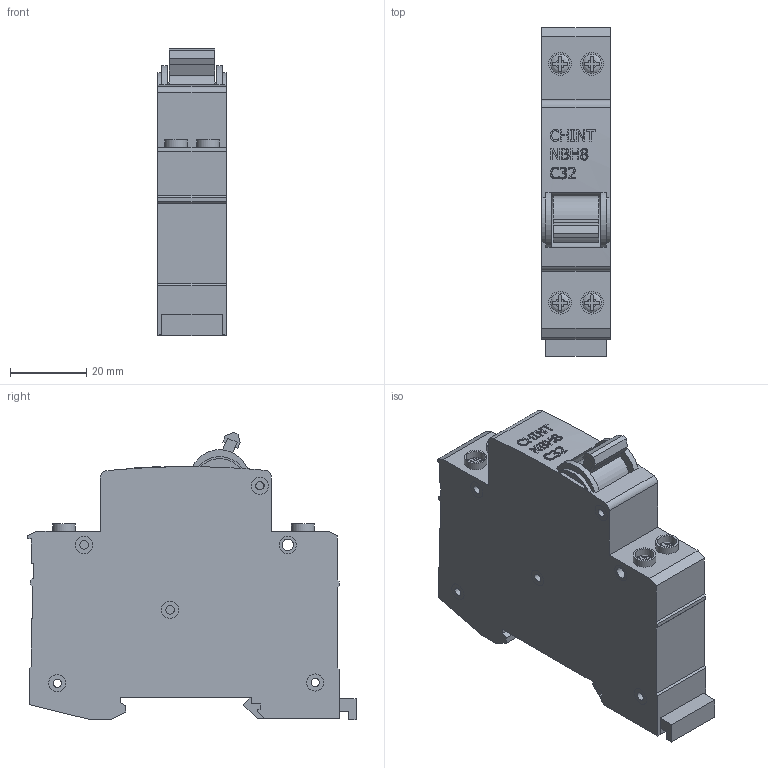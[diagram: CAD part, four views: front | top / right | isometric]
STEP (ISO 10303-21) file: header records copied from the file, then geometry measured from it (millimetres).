
FILE_DESCRIPTION(/* description */ (''),/* implementation_level */ '2;1');
FILE_NAME(/* name */ 'D:\CHINT\NBH8\Авт. Выкл NBH8-40 1P+N 16A 4.5kA х-ка B (CHINT).stp',/* time_stamp */ '2017-09-03T18:27:48+04:00',/* author */ ('RSagdiev'),/* organization */ (''),/* preprocessor_version */ 'ST-DEVELOPER v16.5',/* originating_system */ 'Autodesk Inventor 2017',/* authorisation */ '');
FILE_SCHEMA (('AUTOMOTIVE_DESIGN { 1 0 10303 214 3 1 1 }'));
Length unit declared in the file: millimetre
Products named in the file (1): Авт. Выкл NBH8-40 1P+N 16A 4.5kA
 х-ка B (CHINT)
Bounding box: 18 x 86.32 x 75.66 mm (x, y, z)
Volume: 80636.6 mm3; surface area: 20937.8 mm2
Topology: 23 solids, 23 shells, 464 faces, 1162 edges, 776 vertices
Faces by surface type: plane 284, bspline 103, cylinder 77
Full cylindrical faces by diameter (mm): 2.111 x1, 2.212 x17, 3.016 x3, 4.524 x18, 5 x4, 6 x4
Entity records: 16280 total; most frequent: CARTESIAN_POINT 5697, ORIENTED_EDGE 2218, DIRECTION 1919, EDGE_CURVE 1107, VERTEX_POINT 768, AXIS2_PLACEMENT_3D 654, LINE 611, VECTOR 611
